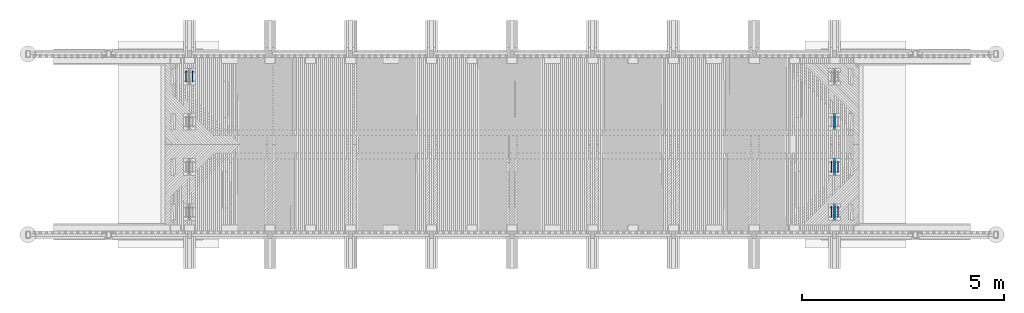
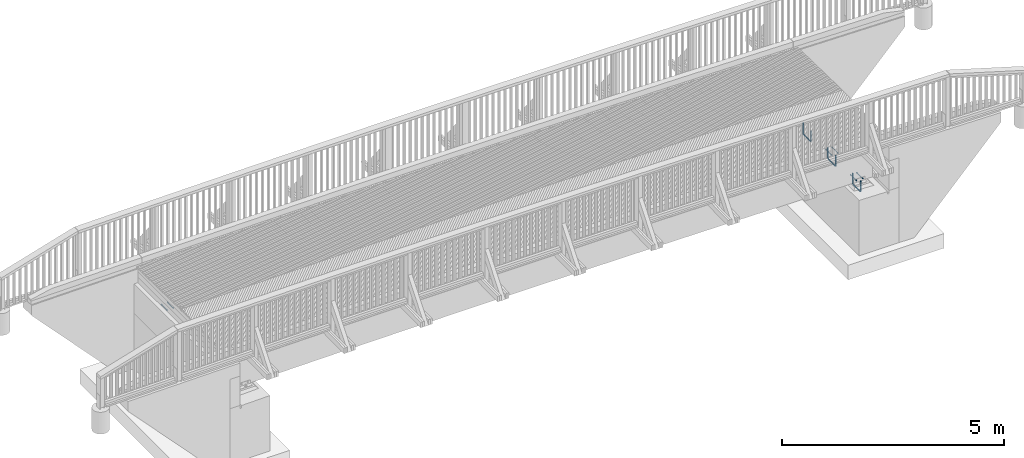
# One storey, part 2 of 53: 6 reinforcing bars, 3 mechanical fasteners.
"""IFC2X3 building model written with IfcOpenShell, lengths in millimetres."""

from ifc_helpers import new_model, si_unit, frame, origin_with_axes, place, context, subcontext, project, spatial, faceted_brep, source, transform, mapped, material, type_object, element, save


model = new_model("IFC2X3")

# Units and contexts
model_context = context("Model", 3, precision=1e-05, world=origin_with_axes())
body_context = subcontext(model_context, "Body", "Model", "MODEL_VIEW")
ifc_project = project(units=[si_unit("LENGTHUNIT", "METRE", prefix="MILLI"), si_unit("AREAUNIT", "SQUARE_METRE"), si_unit("VOLUMEUNIT", "CUBIC_METRE"), si_unit("MASSUNIT", "GRAM", prefix="KILO"), si_unit("TIMEUNIT", "SECOND"), si_unit("PLANEANGLEUNIT", "RADIAN"), si_unit("SOLIDANGLEUNIT", "STERADIAN"), si_unit("THERMODYNAMICTEMPERATUREUNIT", "DEGREE_CELSIUS"), si_unit("LUMINOUSINTENSITYUNIT", "LUMEN")], contexts=[model_context])

# Site, building, storey
site_placement = place(None, origin_with_axes())
site = spatial("IfcSite", under=ifc_project, at=site_placement, Name="Undefined", CompositionType="ELEMENT")
building_placement = place(site_placement, origin_with_axes())
building = spatial("IfcBuilding", under=site, at=building_placement, Name="Undefined", CompositionType="ELEMENT")
storey_placement = place(building_placement, origin_with_axes())
storey = spatial("IfcBuildingStorey", under=building, at=storey_placement, Name="Undefined", CompositionType="ELEMENT", Elevation=0.0)

# Reinforcing bars
ifc_material_1 = material(Name="A500HW")
shared_shape_1 = source(origin_with_axes(), body_context, "Body", "Brep", [
    faceted_brep([(9.95929214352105, -5.74999999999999, -1.31778448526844e-16), (9.95929214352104, 5.75000000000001, -1.31778448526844e-16), (-4.46864767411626e-15, 11.5, 5.31556664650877e-32), (-9.95929214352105, 5.75, 1.31778448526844e-16), (-9.95929214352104, -5.75, 1.31778448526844e-16), (0.0, -11.5, 0.0), (-9.95929214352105, -5.75, -268.5), (-3.5527136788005e-15, -11.5, -268.5), (-9.95929214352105, 5.75, -268.5), (-8.02136135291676e-15, 11.5, -268.5), (9.95929214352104, 5.75000000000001, -268.5), (9.95929214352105, -5.74999999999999, -268.5), (-4.40480021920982, -5.75, -289.229646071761), (4.22019978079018, -11.5, -284.25), (-4.40480021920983, 5.75, -289.229646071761), (4.22019978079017, 11.5, -284.25), (12.8451997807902, 5.75000000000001, -279.27035392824), (12.8451997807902, -5.74999999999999, -279.27035392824), (10.7703539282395, -5.75, -304.40480021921), (15.75, -11.5, -295.77980021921), (10.7703539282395, 5.75, -304.40480021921), (15.75, 11.5, -295.77980021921), (20.7296460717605, 5.75000000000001, -287.15480021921), (20.7296460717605, -5.74999999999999, -287.15480021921), (31.5, -5.75, -309.959292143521), (31.5, -11.5, -300.0), (31.5, 5.75, -309.959292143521), (31.5, 11.5, -300.0), (31.5, 5.75000000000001, -290.040707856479), (31.5, -5.74999999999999, -290.040707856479), (323.5, -5.75, -309.959292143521), (323.5, -11.5, -300.0), (323.5, 5.75, -309.959292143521), (323.5, 11.5, -300.0), (323.5, 5.75000000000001, -290.040707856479), (323.5, -5.74999999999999, -290.040707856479), (344.229646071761, -5.75, -304.40480021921), (339.25, -11.5, -295.77980021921), (344.229646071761, 5.75, -304.40480021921), (339.25, 11.5, -295.77980021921), (334.270353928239, 5.75000000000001, -287.15480021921), (334.270353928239, -5.74999999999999, -287.15480021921), (359.40480021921, -5.75, -289.229646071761), (350.77980021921, -11.5, -284.25), (359.40480021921, 5.75, -289.229646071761), (350.77980021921, 11.5, -284.25), (342.15480021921, 5.75000000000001, -279.27035392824), (342.15480021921, -5.74999999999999, -279.27035392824), (364.959292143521, -5.75, -268.5), (355.0, -11.5, -268.5), (364.959292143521, 5.75, -268.5), (355.0, 11.5, -268.5), (345.040707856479, 5.75000000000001, -268.5), (345.040707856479, -5.74999999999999, -268.5), (364.959292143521, -5.75, 0.0), (355.0, -11.5, 0.0), (364.959292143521, 5.75, 0.0), (355.0, 11.5, 0.0), (345.040707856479, 5.75000000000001, 0.0), (345.040707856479, -5.74999999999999, 0.0)], [[[0, 1, 2, 3, 4, 5]], [[5, 4, 6, 7]], [[4, 3, 8, 6]], [[3, 2, 9, 8]], [[2, 1, 10, 9]], [[1, 0, 11, 10]], [[0, 5, 7, 11]], [[7, 6, 12, 13]], [[6, 8, 14, 12]], [[8, 9, 15, 14]], [[9, 10, 16, 15]], [[10, 11, 17, 16]], [[11, 7, 13, 17]], [[13, 12, 18, 19]], [[12, 14, 20, 18]], [[14, 15, 21, 20]], [[15, 16, 22, 21]], [[16, 17, 23, 22]], [[17, 13, 19, 23]], [[19, 18, 24, 25]], [[18, 20, 26, 24]], [[20, 21, 27, 26]], [[21, 22, 28, 27]], [[22, 23, 29, 28]], [[23, 19, 25, 29]], [[25, 24, 30, 31]], [[24, 26, 32, 30]], [[26, 27, 33, 32]], [[27, 28, 34, 33]], [[28, 29, 35, 34]], [[29, 25, 31, 35]], [[31, 30, 36, 37]], [[30, 32, 38, 36]], [[32, 33, 39, 38]], [[33, 34, 40, 39]], [[34, 35, 41, 40]], [[35, 31, 37, 41]], [[37, 36, 42, 43]], [[36, 38, 44, 42]], [[38, 39, 45, 44]], [[39, 40, 46, 45]], [[40, 41, 47, 46]], [[41, 37, 43, 47]], [[43, 42, 48, 49]], [[42, 44, 50, 48]], [[44, 45, 51, 50]], [[45, 46, 52, 51]], [[46, 47, 53, 52]], [[47, 43, 49, 53]], [[49, 48, 54, 55]], [[48, 50, 56, 54]], [[50, 51, 57, 56]], [[51, 52, 58, 57]], [[52, 53, 59, 58]], [[53, 49, 55, 59]], [[55, 54, 56, 57, 58, 59]]]),
])
for number, where, z_axis, x_axis, name in (
    (1, (16000.0, 43102.5000000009, 1637.32999999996), (0.0, 0.0, 1.0), (0.0, -1.0, 0.0), "REBAR"),
    (2, (16000.0, 41627.5, 1637.32999999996), (0.0, 0.0, 1.0), (0.0, 1.0, 0.0), "REBAR"),
    (3, (16000.0, 40507.5, 1615.32999999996), (0.0, 0.0, 1.0), (0.0, 1.0, 0.0), "REBAR"),
    (4, (16000.0, 40507.5, 1615.32999999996), (0.0, 0.0, 1.0), (0.0, 1.0, 0.0), "REBAR"),
    (5, (16000.0, 41627.5, 1637.32999999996), (0.0, 0.0, 1.0), (0.0, 1.0, 0.0), "REBAR"),
    (6, (16000.0, 43102.5000000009, 1637.32999999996), (0.0, 0.0, 1.0), (0.0, -1.0, 0.0), "REBAR"),
):
    element("IfcReinforcingBar", number, at=place(storey_placement, frame(where, z_axis=z_axis, x_axis=x_axis)), inside=storey, material=ifc_material_1, Name=name, BarRole="NOTDEFINED", CrossSectionArea=0.0, NominalDiameter=23.0, context=body_context, shape_type="MappedRepresentation", body=[
        mapped(shared_shape_1, transform((0.0, 0.0, 420.0))),
    ])

# Mechanical fasteners
ifc_material_2 = material(Name="Undefined")
mechanical_fastener_type = type_object("IfcMechanicalFastenerType", Name="Bolt assembly")
shared_shape_2 = source(origin_with_axes(), body_context, "Body", "Brep", [
    faceted_brep([(17.3205080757, -238.7, 0.0), (8.66025403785, -238.7, 15.0000000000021), (-8.66025403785, -238.7, 15.0000000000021), (-17.3205080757, -238.7, 0.0), (-8.66025403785, -238.7, -15.0000000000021), (8.66025403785, -238.7, -15.0000000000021), (8.66025403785, -225.5, -15.0000000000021), (-8.66025403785, -225.5, -15.0000000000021), (-17.3205080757, -225.5, 0.0), (-8.66025403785, -225.5, 15.0000000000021), (8.66025403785, -225.5, 15.0000000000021), (17.3205080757, -225.5, 0.0), (10.0, -225.5, 0.0), (8.66025403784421, -225.5, 5.0000000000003), (4.9999999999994, -225.5, 8.66025403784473), (-1.03633598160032e-12, -225.5, 10.0), (-5.00000000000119, -225.5, 8.6602540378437), (-8.66025403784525, -225.5, 4.99999999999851), (-10.0, -225.5, -2.07267196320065e-12), (-8.66025403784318, -225.5, -5.00000000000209), (-4.99999999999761, -225.5, -8.66025403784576), (3.09790571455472e-12, -225.5, -10.0), (5.00000000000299, -225.5, -8.66025403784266), (8.66025403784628, -225.5, -4.99999999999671), (8.66025403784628, 44.5, -4.99999999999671), (5.00000000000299, 44.5, -8.66025403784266), (3.09790571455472e-12, 44.5, -10.0), (-4.99999999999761, 44.5, -8.66025403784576), (-8.66025403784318, 44.5, -5.00000000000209), (-10.0, 44.5, -2.07267196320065e-12), (-8.66025403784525, 44.5, 4.99999999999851), (-5.00000000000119, 44.5, 8.6602540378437), (-1.03633598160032e-12, 44.5, 10.0), (4.9999999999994, 44.5, 8.66025403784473), (8.66025403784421, 44.5, 5.0000000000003), (10.0, 44.5, 0.0), (18.5, -225.5, 0.0), (16.0214699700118, -225.5, 9.25000000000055), (9.2499999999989, -225.5, 16.0214699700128), (-1.9172215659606e-12, -225.5, 18.5), (-9.25000000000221, -225.5, 16.0214699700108), (-16.0214699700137, -225.5, 9.24999999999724), (-18.5, -225.5, -3.83444313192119e-12), (-16.0214699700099, -225.5, -9.25000000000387), (-9.24999999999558, -225.5, -16.0214699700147), (5.73112557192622e-12, -225.5, -18.5), (9.25000000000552, -225.5, -16.0214699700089), (16.0214699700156, -225.5, -9.24999999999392), (16.0214699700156, -222.5, -9.24999999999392), (9.25000000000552, -222.5, -16.0214699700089), (5.73112557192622e-12, -222.5, -18.5), (-9.24999999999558, -222.5, -16.0214699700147), (-16.0214699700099, -222.5, -9.25000000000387), (-18.5, -222.5, -3.83444313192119e-12), (-16.0214699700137, -222.5, 9.24999999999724), (-9.25000000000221, -222.5, 16.0214699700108), (-1.9172215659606e-12, -222.5, 18.5), (9.2499999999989, -222.5, 16.0214699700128), (16.0214699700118, -222.5, 9.25000000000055), (18.5, -222.5, 0.0), (18.5, 12.5, 0.0), (16.0214699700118, 12.5, 9.25000000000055), (9.2499999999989, 12.5, 16.0214699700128), (-1.9172215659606e-12, 12.5, 18.5), (-9.25000000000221, 12.5, 16.0214699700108), (-16.0214699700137, 12.5, 9.24999999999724), (-18.5, 12.5, -3.83444313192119e-12), (-16.0214699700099, 12.5, -9.25000000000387), (-9.24999999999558, 12.5, -16.0214699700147), (5.73112557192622e-12, 12.5, -18.5), (9.25000000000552, 12.5, -16.0214699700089), (16.0214699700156, 12.5, -9.24999999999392), (16.0214699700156, 15.5, -9.24999999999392), (9.25000000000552, 15.5, -16.0214699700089), (5.73112557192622e-12, 15.5, -18.5), (-9.24999999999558, 15.5, -16.0214699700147), (-16.0214699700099, 15.5, -9.25000000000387), (-18.5, 15.5, -3.83444313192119e-12), (-16.0214699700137, 15.5, 9.24999999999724), (-9.25000000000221, 15.5, 16.0214699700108), (-1.9172215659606e-12, 15.5, 18.5), (9.2499999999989, 15.5, 16.0214699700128), (16.0214699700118, 15.5, 9.25000000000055), (18.5, 15.5, 0.0), (17.3205080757, 15.5, 0.0), (8.66025403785, 15.5, 15.0000000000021), (-8.66025403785, 15.5, 15.0000000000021), (-17.3205080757, 15.5, 0.0), (-8.66025403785, 15.5, -15.0000000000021), (8.66025403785, 15.5, -15.0000000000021), (8.66025403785, 31.5, -15.0000000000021), (-8.66025403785, 31.5, -15.0000000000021), (-17.3205080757, 31.5, 0.0), (-8.66025403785, 31.5, 15.0000000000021), (8.66025403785, 31.5, 15.0000000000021), (17.3205080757, 31.5, 0.0)], [[[0, 1, 2, 3, 4, 5]], [[6, 7, 8, 9, 10, 11]], [[0, 11, 10, 1]], [[1, 10, 9, 2]], [[2, 9, 8, 3]], [[3, 8, 7, 4]], [[4, 7, 6, 5]], [[5, 6, 11, 0]], [[12, 13, 14, 15, 16, 17, 18, 19, 20, 21, 22, 23]], [[24, 25, 26, 27, 28, 29, 30, 31, 32, 33, 34, 35]], [[12, 35, 34, 13]], [[13, 34, 33, 14]], [[14, 33, 32, 15]], [[15, 32, 31, 16]], [[16, 31, 30, 17]], [[17, 30, 29, 18]], [[18, 29, 28, 19]], [[19, 28, 27, 20]], [[20, 27, 26, 21]], [[21, 26, 25, 22]], [[22, 25, 24, 23]], [[23, 24, 35, 12]], [[36, 37, 38, 39, 40, 41, 42, 43, 44, 45, 46, 47]], [[48, 49, 50, 51, 52, 53, 54, 55, 56, 57, 58, 59]], [[36, 59, 58, 37]], [[37, 58, 57, 38]], [[38, 57, 56, 39]], [[39, 56, 55, 40]], [[40, 55, 54, 41]], [[41, 54, 53, 42]], [[42, 53, 52, 43]], [[43, 52, 51, 44]], [[44, 51, 50, 45]], [[45, 50, 49, 46]], [[46, 49, 48, 47]], [[47, 48, 59, 36]], [[60, 61, 62, 63, 64, 65, 66, 67, 68, 69, 70, 71]], [[72, 73, 74, 75, 76, 77, 78, 79, 80, 81, 82, 83]], [[60, 83, 82, 61]], [[61, 82, 81, 62]], [[62, 81, 80, 63]], [[63, 80, 79, 64]], [[64, 79, 78, 65]], [[65, 78, 77, 66]], [[66, 77, 76, 67]], [[67, 76, 75, 68]], [[68, 75, 74, 69]], [[69, 74, 73, 70]], [[70, 73, 72, 71]], [[71, 72, 83, 60]], [[84, 85, 86, 87, 88, 89]], [[90, 91, 92, 93, 94, 95]], [[84, 95, 94, 85]], [[85, 94, 93, 86]], [[86, 93, 92, 87]], [[87, 92, 91, 88]], [[88, 91, 90, 89]], [[89, 90, 95, 84]]]),
    faceted_brep([(11.0, 2.4, 0.0), (9.52627944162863, 2.4, 5.50000000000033), (5.49999999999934, 2.4, 9.5262794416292), (-1.13996957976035e-12, 2.4, 11.0), (-5.50000000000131, 2.4, 9.52627944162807), (-9.52627944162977, 2.4, 5.49999999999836), (-11.0, 2.4, -2.27993915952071e-12), (-9.5262794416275, 2.4, -5.5000000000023), (-5.49999999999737, 2.4, -9.52627944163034), (3.40769628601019e-12, 2.4, -11.0), (5.50000000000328, 2.4, -9.52627944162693), (9.52627944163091, 2.4, -5.49999999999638), (9.52627944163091, 12.5, -5.49999999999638), (5.50000000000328, 12.5, -9.52627944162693), (3.40769628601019e-12, 12.5, -11.0), (-5.49999999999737, 12.5, -9.52627944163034), (-9.5262794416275, 12.5, -5.5000000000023), (-11.0, 12.5, -2.27993915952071e-12), (-9.52627944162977, 12.5, 5.49999999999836), (-5.50000000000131, 12.5, 9.52627944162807), (-1.13996957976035e-12, 12.5, 11.0), (5.49999999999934, 12.5, 9.5262794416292), (9.52627944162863, 12.5, 5.50000000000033), (11.0, 12.5, 0.0), (11.0, -212.500000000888, 0.0), (9.52627944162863, -212.500000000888, 5.50000000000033), (5.49999999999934, -212.500000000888, 9.5262794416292), (-1.13996957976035e-12, -212.500000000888, 11.0), (-5.50000000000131, -212.500000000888, 9.52627944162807), (-9.52627944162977, -212.500000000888, 5.49999999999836), (-11.0, -212.500000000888, -2.27993915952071e-12), (-9.5262794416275, -212.500000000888, -5.5000000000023), (-5.49999999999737, -212.500000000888, -9.52627944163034), (3.40769628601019e-12, -212.500000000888, -11.0), (5.50000000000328, -212.500000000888, -9.52627944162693), (9.52627944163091, -212.500000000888, -5.49999999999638), (9.52627944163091, 2.49999999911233, -5.49999999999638), (5.50000000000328, 2.49999999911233, -9.52627944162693), (3.40769628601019e-12, 2.49999999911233, -11.0), (-5.49999999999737, 2.49999999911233, -9.52627944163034), (-9.5262794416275, 2.49999999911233, -5.5000000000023), (-11.0, 2.49999999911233, -2.27993915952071e-12), (-9.52627944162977, 2.49999999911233, 5.49999999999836), (-5.50000000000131, 2.49999999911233, 9.52627944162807), (-1.13996957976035e-12, 2.49999999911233, 11.0), (5.49999999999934, 2.49999999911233, 9.5262794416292), (9.52627944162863, 2.49999999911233, 5.50000000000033), (11.0, 2.49999999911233, 0.0), (11.0, -222.4, 0.0), (9.52627944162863, -222.4, 5.50000000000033), (5.49999999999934, -222.4, 9.5262794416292), (-1.13996957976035e-12, -222.4, 11.0), (-5.50000000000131, -222.4, 9.52627944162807), (-9.52627944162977, -222.4, 5.49999999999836), (-11.0, -222.4, -2.27993915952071e-12), (-9.5262794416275, -222.4, -5.5000000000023), (-5.49999999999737, -222.4, -9.52627944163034), (3.40769628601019e-12, -222.4, -11.0), (5.50000000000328, -222.4, -9.52627944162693), (9.52627944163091, -222.4, -5.49999999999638), (9.52627944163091, -212.4, -5.49999999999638), (5.50000000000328, -212.4, -9.52627944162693), (3.40769628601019e-12, -212.4, -11.0), (-5.49999999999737, -212.4, -9.52627944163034), (-9.5262794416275, -212.4, -5.5000000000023), (-11.0, -212.4, -2.27993915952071e-12), (-9.52627944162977, -212.4, 5.49999999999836), (-5.50000000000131, -212.4, 9.52627944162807), (-1.13996957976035e-12, -212.4, 11.0), (5.49999999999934, -212.4, 9.5262794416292), (9.52627944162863, -212.4, 5.50000000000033), (11.0, -212.4, 0.0)], [[[0, 1, 2, 3, 4, 5, 6, 7, 8, 9, 10, 11]], [[12, 13, 14, 15, 16, 17, 18, 19, 20, 21, 22, 23]], [[0, 23, 22, 1]], [[1, 22, 21, 2]], [[2, 21, 20, 3]], [[3, 20, 19, 4]], [[4, 19, 18, 5]], [[5, 18, 17, 6]], [[6, 17, 16, 7]], [[7, 16, 15, 8]], [[8, 15, 14, 9]], [[9, 14, 13, 10]], [[10, 13, 12, 11]], [[11, 12, 23, 0]], [[24, 25, 26, 27, 28, 29, 30, 31, 32, 33, 34, 35]], [[36, 37, 38, 39, 40, 41, 42, 43, 44, 45, 46, 47]], [[24, 47, 46, 25]], [[25, 46, 45, 26]], [[26, 45, 44, 27]], [[27, 44, 43, 28]], [[28, 43, 42, 29]], [[29, 42, 41, 30]], [[30, 41, 40, 31]], [[31, 40, 39, 32]], [[32, 39, 38, 33]], [[33, 38, 37, 34]], [[34, 37, 36, 35]], [[35, 36, 47, 24]], [[48, 49, 50, 51, 52, 53, 54, 55, 56, 57, 58, 59]], [[60, 61, 62, 63, 64, 65, 66, 67, 68, 69, 70, 71]], [[48, 71, 70, 49]], [[49, 70, 69, 50]], [[50, 69, 68, 51]], [[51, 68, 67, 52]], [[52, 67, 66, 53]], [[53, 66, 65, 54]], [[54, 65, 64, 55]], [[55, 64, 63, 56]], [[56, 63, 62, 57]], [[57, 62, 61, 58]], [[58, 61, 60, 59]], [[59, 60, 71, 48]]]),
])
mechanical_fastener_placement = place(storey_placement, frame((-80.0, 44150.0000000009, 2045.33), z_axis=(0.0, 0.0, 1.0), x_axis=(1.0, 0.0, 0.0)))
element("IfcMechanicalFastener", 7, at=mechanical_fastener_placement, inside=storey, type_object=mechanical_fastener_type, material=ifc_material_2, Name="Bolt assembly", NominalDiameter=20.0, NominalLength=270.0, context=body_context, shape_type="MappedRepresentation", body=[
    mapped(shared_shape_2, transform((0.0, 0.0, 0.0))),
    mapped(shared_shape_2, transform((160.0, 0.0, 0.0))),
])
shared_shape_3 = source(origin_with_axes(), body_context, "Body", "Brep", [
    faceted_brep([(17.3205080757, -28.7, 0.0), (8.66025403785, -28.7, 15.0000000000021), (-8.66025403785, -28.7, 15.0000000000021), (-17.3205080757, -28.7, 0.0), (-8.66025403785, -28.7, -15.0000000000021), (8.66025403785, -28.7, -15.0000000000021), (8.66025403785, -15.5, -15.0000000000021), (-8.66025403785, -15.5, -15.0000000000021), (-17.3205080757, -15.5, 0.0), (-8.66025403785, -15.5, 15.0000000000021), (8.66025403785, -15.5, 15.0000000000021), (17.3205080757, -15.5, 0.0), (10.0, -15.5, 0.0), (8.66025403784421, -15.5, 5.0000000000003), (4.9999999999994, -15.5, 8.66025403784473), (-1.03633598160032e-12, -15.5, 10.0), (-5.00000000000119, -15.5, 8.6602540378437), (-8.66025403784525, -15.5, 4.99999999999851), (-10.0, -15.5, -2.07267196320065e-12), (-8.66025403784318, -15.5, -5.00000000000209), (-4.99999999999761, -15.5, -8.66025403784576), (3.09790571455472e-12, -15.5, -10.0), (5.00000000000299, -15.5, -8.66025403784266), (8.66025403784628, -15.5, -4.99999999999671), (8.66025403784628, 254.5, -4.99999999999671), (5.00000000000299, 254.5, -8.66025403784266), (3.09790571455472e-12, 254.5, -10.0), (-4.99999999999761, 254.5, -8.66025403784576), (-8.66025403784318, 254.5, -5.00000000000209), (-10.0, 254.5, -2.07267196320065e-12), (-8.66025403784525, 254.5, 4.99999999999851), (-5.00000000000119, 254.5, 8.6602540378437), (-1.03633598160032e-12, 254.5, 10.0), (4.9999999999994, 254.5, 8.66025403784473), (8.66025403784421, 254.5, 5.0000000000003), (10.0, 254.5, 0.0), (18.5, -15.5, 0.0), (16.0214699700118, -15.5, 9.25000000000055), (9.2499999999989, -15.5, 16.0214699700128), (-1.9172215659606e-12, -15.5, 18.5), (-9.25000000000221, -15.5, 16.0214699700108), (-16.0214699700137, -15.5, 9.24999999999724), (-18.5, -15.5, -3.83444313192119e-12), (-16.0214699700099, -15.5, -9.25000000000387), (-9.24999999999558, -15.5, -16.0214699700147), (5.73112557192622e-12, -15.5, -18.5), (9.25000000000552, -15.5, -16.0214699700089), (16.0214699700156, -15.5, -9.24999999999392), (16.0214699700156, -12.5, -9.24999999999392), (9.25000000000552, -12.5, -16.0214699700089), (5.73112557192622e-12, -12.5, -18.5), (-9.24999999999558, -12.5, -16.0214699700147), (-16.0214699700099, -12.5, -9.25000000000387), (-18.5, -12.5, -3.83444313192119e-12), (-16.0214699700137, -12.5, 9.24999999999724), (-9.25000000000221, -12.5, 16.0214699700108), (-1.9172215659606e-12, -12.5, 18.5), (9.2499999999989, -12.5, 16.0214699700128), (16.0214699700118, -12.5, 9.25000000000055), (18.5, -12.5, 0.0), (18.5, 222.5, 0.0), (16.0214699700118, 222.5, 9.25000000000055), (9.2499999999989, 222.5, 16.0214699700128), (-1.9172215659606e-12, 222.5, 18.5), (-9.25000000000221, 222.5, 16.0214699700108), (-16.0214699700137, 222.5, 9.24999999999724), (-18.5, 222.5, -3.83444313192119e-12), (-16.0214699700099, 222.5, -9.25000000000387), (-9.24999999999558, 222.5, -16.0214699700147), (5.73112557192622e-12, 222.5, -18.5), (9.25000000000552, 222.5, -16.0214699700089), (16.0214699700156, 222.5, -9.24999999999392), (16.0214699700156, 225.5, -9.24999999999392), (9.25000000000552, 225.5, -16.0214699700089), (5.73112557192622e-12, 225.5, -18.5), (-9.24999999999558, 225.5, -16.0214699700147), (-16.0214699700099, 225.5, -9.25000000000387), (-18.5, 225.5, -3.83444313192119e-12), (-16.0214699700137, 225.5, 9.24999999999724), (-9.25000000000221, 225.5, 16.0214699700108), (-1.9172215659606e-12, 225.5, 18.5), (9.2499999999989, 225.5, 16.0214699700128), (16.0214699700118, 225.5, 9.25000000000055), (18.5, 225.5, 0.0), (17.3205080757, 225.5, 0.0), (8.66025403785, 225.5, 15.0000000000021), (-8.66025403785, 225.5, 15.0000000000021), (-17.3205080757, 225.5, 0.0), (-8.66025403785, 225.5, -15.0000000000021), (8.66025403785, 225.5, -15.0000000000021), (8.66025403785, 241.5, -15.0000000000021), (-8.66025403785, 241.5, -15.0000000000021), (-17.3205080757, 241.5, 0.0), (-8.66025403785, 241.5, 15.0000000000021), (8.66025403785, 241.5, 15.0000000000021), (17.3205080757, 241.5, 0.0)], [[[0, 1, 2, 3, 4, 5]], [[6, 7, 8, 9, 10, 11]], [[0, 11, 10, 1]], [[1, 10, 9, 2]], [[2, 9, 8, 3]], [[3, 8, 7, 4]], [[4, 7, 6, 5]], [[5, 6, 11, 0]], [[12, 13, 14, 15, 16, 17, 18, 19, 20, 21, 22, 23]], [[24, 25, 26, 27, 28, 29, 30, 31, 32, 33, 34, 35]], [[12, 35, 34, 13]], [[13, 34, 33, 14]], [[14, 33, 32, 15]], [[15, 32, 31, 16]], [[16, 31, 30, 17]], [[17, 30, 29, 18]], [[18, 29, 28, 19]], [[19, 28, 27, 20]], [[20, 27, 26, 21]], [[21, 26, 25, 22]], [[22, 25, 24, 23]], [[23, 24, 35, 12]], [[36, 37, 38, 39, 40, 41, 42, 43, 44, 45, 46, 47]], [[48, 49, 50, 51, 52, 53, 54, 55, 56, 57, 58, 59]], [[36, 59, 58, 37]], [[37, 58, 57, 38]], [[38, 57, 56, 39]], [[39, 56, 55, 40]], [[40, 55, 54, 41]], [[41, 54, 53, 42]], [[42, 53, 52, 43]], [[43, 52, 51, 44]], [[44, 51, 50, 45]], [[45, 50, 49, 46]], [[46, 49, 48, 47]], [[47, 48, 59, 36]], [[60, 61, 62, 63, 64, 65, 66, 67, 68, 69, 70, 71]], [[72, 73, 74, 75, 76, 77, 78, 79, 80, 81, 82, 83]], [[60, 83, 82, 61]], [[61, 82, 81, 62]], [[62, 81, 80, 63]], [[63, 80, 79, 64]], [[64, 79, 78, 65]], [[65, 78, 77, 66]], [[66, 77, 76, 67]], [[67, 76, 75, 68]], [[68, 75, 74, 69]], [[69, 74, 73, 70]], [[70, 73, 72, 71]], [[71, 72, 83, 60]], [[84, 85, 86, 87, 88, 89]], [[90, 91, 92, 93, 94, 95]], [[84, 95, 94, 85]], [[85, 94, 93, 86]], [[86, 93, 92, 87]], [[87, 92, 91, 88]], [[88, 91, 90, 89]], [[89, 90, 95, 84]]]),
    faceted_brep([(11.0, -12.4, 0.0), (9.52627944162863, -12.4, 5.50000000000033), (5.49999999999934, -12.4, 9.5262794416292), (-1.13996957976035e-12, -12.4, 11.0), (-5.50000000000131, -12.4, 9.52627944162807), (-9.52627944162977, -12.4, 5.49999999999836), (-11.0, -12.4, -2.27993915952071e-12), (-9.5262794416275, -12.4, -5.5000000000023), (-5.49999999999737, -12.4, -9.52627944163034), (3.40769628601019e-12, -12.4, -11.0), (5.50000000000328, -12.4, -9.52627944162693), (9.52627944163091, -12.4, -5.49999999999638), (9.52627944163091, -2.4, -5.49999999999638), (5.50000000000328, -2.4, -9.52627944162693), (3.40769628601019e-12, -2.4, -11.0), (-5.49999999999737, -2.4, -9.52627944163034), (-9.5262794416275, -2.4, -5.5000000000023), (-11.0, -2.4, -2.27993915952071e-12), (-9.52627944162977, -2.4, 5.49999999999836), (-5.50000000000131, -2.4, 9.52627944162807), (-1.13996957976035e-12, -2.4, 11.0), (5.49999999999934, -2.4, 9.5262794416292), (9.52627944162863, -2.4, 5.50000000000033), (11.0, -2.4, 0.0), (11.0, 212.4, 0.0), (9.52627944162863, 212.4, 5.50000000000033), (5.49999999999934, 212.4, 9.5262794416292), (-1.13996957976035e-12, 212.4, 11.0), (-5.50000000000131, 212.4, 9.52627944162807), (-9.52627944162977, 212.4, 5.49999999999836), (-11.0, 212.4, -2.27993915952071e-12), (-9.5262794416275, 212.4, -5.5000000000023), (-5.49999999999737, 212.4, -9.52627944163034), (3.40769628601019e-12, 212.4, -11.0), (5.50000000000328, 212.4, -9.52627944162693), (9.52627944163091, 212.4, -5.49999999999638), (9.52627944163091, 222.5, -5.49999999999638), (5.50000000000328, 222.5, -9.52627944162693), (3.40769628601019e-12, 222.5, -11.0), (-5.49999999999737, 222.5, -9.52627944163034), (-9.5262794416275, 222.5, -5.5000000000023), (-11.0, 222.5, -2.27993915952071e-12), (-9.52627944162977, 222.5, 5.49999999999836), (-5.50000000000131, 222.5, 9.52627944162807), (-1.13996957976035e-12, 222.5, 11.0), (5.49999999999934, 222.5, 9.5262794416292), (9.52627944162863, 222.5, 5.50000000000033), (11.0, 222.5, 0.0)], [[[0, 1, 2, 3, 4, 5, 6, 7, 8, 9, 10, 11]], [[12, 13, 14, 15, 16, 17, 18, 19, 20, 21, 22, 23]], [[0, 23, 22, 1]], [[1, 22, 21, 2]], [[2, 21, 20, 3]], [[3, 20, 19, 4]], [[4, 19, 18, 5]], [[5, 18, 17, 6]], [[6, 17, 16, 7]], [[7, 16, 15, 8]], [[8, 15, 14, 9]], [[9, 14, 13, 10]], [[10, 13, 12, 11]], [[11, 12, 23, 0]], [[24, 25, 26, 27, 28, 29, 30, 31, 32, 33, 34, 35]], [[36, 37, 38, 39, 40, 41, 42, 43, 44, 45, 46, 47]], [[24, 47, 46, 25]], [[25, 46, 45, 26]], [[26, 45, 44, 27]], [[27, 44, 43, 28]], [[28, 43, 42, 29]], [[29, 42, 41, 30]], [[30, 41, 40, 31]], [[31, 40, 39, 32]], [[32, 39, 38, 33]], [[33, 38, 37, 34]], [[34, 37, 36, 35]], [[35, 36, 47, 24]]]),
])
for number, where, z_axis, x_axis, name in (
    (8, (16080.0, 41700.0, 2067.33), (0.0, 0.0, -1.0), (-1.0, 0.0, 0.0), "Bolt assembly"),
    (9, (16080.0, 40580.0, 2045.33), (0.0, 0.0, -1.0), (-1.0, 0.0, 0.0), "Bolt assembly"),
):
    element("IfcMechanicalFastener", number, at=place(storey_placement, frame(where, z_axis=z_axis, x_axis=x_axis)), inside=storey, type_object=mechanical_fastener_type, material=ifc_material_2, Name=name, NominalDiameter=20.0, NominalLength=270.0, context=body_context, shape_type="MappedRepresentation", body=[
        mapped(shared_shape_3, transform((0.0, 0.0, 0.0))),
        mapped(shared_shape_3, transform((160.0, 0.0, 0.0))),
    ])

save(model, "model.ifc")
